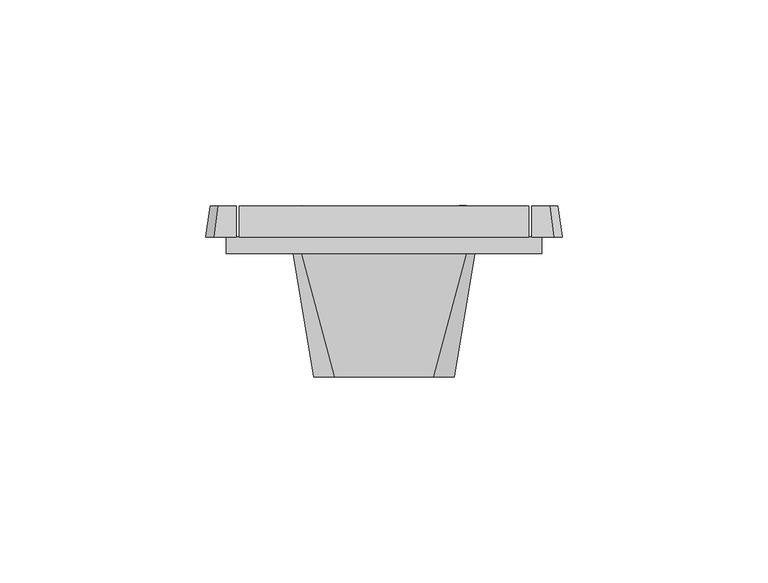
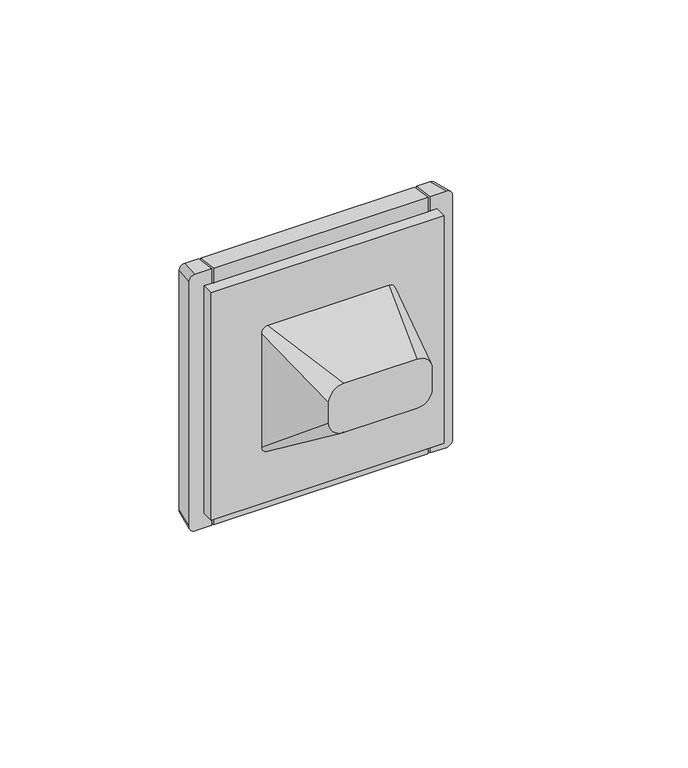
"""IFC4 building model written with IfcOpenShell, lengths in millimetres: proxy geometry, IEK_Forte&Piano_Розекта 1гн : USB A+A_FP145."""

from ifc_helpers import new_model, si_unit, point, frame, frame_2d, origin, origin_2d, place, context, project, spatial, polyline, circle_curve, ellipse_curve, trimmed, segment, composite_curve, outline, extrude, source, transform, mapped, element, save
from ifc_brep_helpers import plane_surface, cylinder_surface, revolved_surface, extruded_surface, spline_surface, advanced_brep


def electrical_fixtures_ebbff71c(model_context):
    return source(origin(), model_context, "Body", "SolidModel", [
        extrude(outline(polyline([(0.0, -1.1531456), (0.0, 0.0), (6.432744, 0.0), (6.432744, -1.1531456), (0.0, -1.1531456)])), frame((21.2404576, 9.798562, 14.5465446), z_axis=(0.7071067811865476, 0.0, 0.7071067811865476), x_axis=(0.0, -1.0, 0.0)), (0.0, 0.0, 1.0), 0.9632194),
        extrude(outline(polyline([(0.0, -1.1531455), (0.0, 0.0), (6.432744, 0.0), (6.432744, -1.1531455), (0.0, -1.1531455)])), frame((19.4528563, 9.798562, 16.3341459), z_axis=(0.7071067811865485, 0.0, 0.7071067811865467), x_axis=(0.0, -1.0, 0.0)), (0.0, 0.0, 1.0), 0.9632194),
        extrude(outline(polyline([(0.0, -1.1531456), (0.0, 0.0), (6.432744, 0.0), (6.432744, -1.1531456), (0.0, -1.1531456)])), frame((17.7049237, 9.798562, 18.0820785), z_axis=(0.7071067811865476, 0.0, 0.7071067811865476), x_axis=(0.0, -1.0, 0.0)), (0.0, 0.0, 1.0), 0.9632194),
        extrude(outline(polyline([(0.0, -1.1531455), (0.0, 0.0), (6.432744, 0.0), (6.432744, -1.1531455), (0.0, -1.1531455)])), frame((15.9173224, 9.798562, 19.8696798), z_axis=(0.7071067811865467, 0.0, 0.7071067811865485), x_axis=(0.0, -1.0, 0.0)), (0.0, 0.0, 1.0), 0.9632194),
        extrude(outline(polyline([(0.0, -11.3487944), (0.0, 0.0), (6.7835378, 0.0), (6.7835378, -11.3487944), (0.0, -11.3487944)])), frame((14.0179934, 3.365818, 21.2650885), z_axis=(0.7071067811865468, 0.0, 0.7071067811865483), x_axis=(0.0, 1.0, 0.0)), (0.0, 0.0, 1.0), 1.1632949),
        extrude(outline(polyline([(0.0, -0.9632194), (0.0, 0.0), (6.432744, 0.0), (6.432744, -0.9632194), (0.0, -0.9632194)])), frame((-21.2404576, 9.798562, 14.5465446), z_axis=(0.7071067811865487, 0.0, 0.7071067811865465), x_axis=(0.0, -1.0, 0.0)), (0.0, 0.0, 1.0), 1.1531456),
        extrude(outline(polyline([(0.0, -0.9632194), (0.0, 0.0), (6.432744, 0.0), (6.432744, -0.9632194), (0.0, -0.9632194)])), frame((-19.4528563, 9.798562, 16.3341459), z_axis=(0.7071067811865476, 0.0, 0.7071067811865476), x_axis=(0.0, -1.0, 0.0)), (0.0, 0.0, 1.0), 1.1531456),
        extrude(outline(polyline([(0.0, -0.9632194), (0.0, 0.0), (6.432744, 0.0), (6.432744, -0.9632194), (0.0, -0.9632194)])), frame((-17.7049237, 9.798562, 18.0820785), z_axis=(0.7071067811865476, 0.0, 0.7071067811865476), x_axis=(0.0, -1.0, 0.0)), (0.0, 0.0, 1.0), 1.1531456),
        extrude(outline(polyline([(0.0, -0.9632194), (0.0, 0.0), (6.432744, 0.0), (6.432744, -0.9632194), (0.0, -0.9632194)])), frame((-15.9173224, 9.798562, 19.8696798), z_axis=(0.7071067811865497, 0.0, 0.7071067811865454), x_axis=(0.0, -1.0, 0.0)), (0.0, 0.0, 1.0), 1.1531456),
        extrude(outline(polyline([(0.0, -1.1632949), (0.0, 0.0), (6.7835378, 0.0), (6.7835378, -1.1632949), (0.0, -1.1632949)])), frame((-22.8653766, 3.365818, 14.0628527), z_axis=(0.7071067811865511, 0.0, 0.7071067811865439), x_axis=(0.0, 1.0, 0.0)), (0.0, 0.0, 1.0), 11.3487944),
        advanced_brep(
        [(-20.0, 11.6, 0.0), (-20.0, 0.0, 0.0), (20.0, 0.0, 0.0), (20.0, 11.6, 0.0), (35.2, 11.5, 43.5), (35.2, 4.0, 44.5), (35.2, 4.0, 39.5), (35.2, 4.0, -39.5), (35.2, 4.0, -44.5), (35.2, 11.5, -43.5), (-35.2, 11.5, 43.5), (-35.2, 11.5, -43.5), (-35.2, 4.0, -44.5), (-35.2, 4.0, -39.5), (-35.2, 4.0, 39.5), (-35.2, 4.0, 44.5), (21.930348, 11.5, 11.4595346), (26.1729886, 11.5, 15.7021753), (16.2734937, 11.5, 25.6016703), (12.030853, 11.5, 21.3590296), (-16.2734937, 11.5, 25.6016703), (-26.1729886, 11.5, 15.7021753), (-21.930348, 11.5, 11.4595346), (-12.030853, 11.5, 21.3590296), (26.1729886, 4.0, 15.7021753), (21.930348, 4.0, 11.4595346), (12.030853, 4.0, 21.3590296), (16.2734937, 4.0, 25.6016703), (-26.1729886, 4.0, 15.7021753), (-16.2734937, 4.0, 25.6016703), (-12.030853, 4.0, 21.3590296), (-21.930348, 4.0, 11.4595346), (38.25, 4.0, 39.5), (38.25, 4.0, -39.5), (-38.25, 4.0, -39.5), (-38.25, 4.0, 39.5), (-38.25, 0.0, 39.5), (-38.25, 0.0, -39.5), (38.25, 0.0, -39.5), (38.25, 0.0, 39.5)],
        [
            (0, 1),
            (1, 2, circle_curve(frame((0.0, 0.0, 0.0), z_axis=(0.0, -1.0, 0.0), x_axis=(-1.0, 0.0, 0.0)), 20.0)),
            (2, 3),
            (3, 0, circle_curve(frame((0.0, 11.5, 0.0), z_axis=(0.0, 1.0, 0.0), x_axis=(-1.0, 0.0, 0.0)), 20.0)),
            (0, 3, circle_curve(frame((0.0, 11.5, 0.0), z_axis=(0.0, 1.0, 0.0), x_axis=(-1.0, 0.0, 0.0)), 20.0)),
            (2, 1, circle_curve(frame((0.0, 0.0, 0.0), z_axis=(0.0, -1.0, 0.0), x_axis=(-1.0, 0.0, 0.0)), 20.0)),
            (4, 5),
            (5, 6),
            (6, 7),
            (7, 8),
            (8, 9),
            (9, 4),
            (10, 11),
            (11, 12),
            (12, 13),
            (13, 14),
            (14, 15),
            (15, 10),
            (4, 10),
            (15, 5),
            (14, 6),
            (12, 8),
            (7, 13),
            (11, 9),
            (16, 17),
            (17, 18),
            (18, 19),
            (19, 16),
            (20, 21),
            (21, 22),
            (22, 23),
            (23, 20),
            (24, 17),
            (16, 25),
            (25, 24),
            (19, 26),
            (26, 25),
            (18, 27),
            (27, 26),
            (24, 27),
            (28, 21),
            (20, 29),
            (29, 28),
            (23, 30),
            (30, 29),
            (22, 31),
            (31, 30),
            (28, 31),
            (32, 33),
            (33, 7),
            (6, 32),
            (34, 35),
            (35, 14),
            (13, 34),
            (36, 37),
            (37, 38),
            (38, 39),
            (39, 36),
            (34, 37),
            (36, 35),
            (33, 38),
            (32, 39),
        ],
        [
            revolved_surface(polyline([(-20.0, 11.6, 0.0), (-20.0, 0.0, 0.0)]), (0.0, 0.0, 0.0), (0.0, 1.0, 0.0)),
            plane_surface(frame((35.2, 4.0, 44.5), z_axis=(1.0, 0.0, 0.0), x_axis=(0.0, -0.9912279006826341, 0.13216372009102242))),
            plane_surface(frame((-35.2, 4.0, 44.5), z_axis=(-1.0, 0.0, 0.0), x_axis=(0.0, 0.9912279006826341, -0.13216372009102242))),
            plane_surface(frame((35.2, 11.5, 43.5), z_axis=(0.0, 0.13216372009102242, 0.9912279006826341), x_axis=(-1.0, 0.0, 0.0))),
            plane_surface(frame((35.2, 4.0, 44.5), z_axis=(0.0, -1.0, 0.0), x_axis=(-1.0, 0.0, 0.0))),
            plane_surface(frame((35.2, 4.0, -44.5), z_axis=(0.0, 0.1321637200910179, -0.9912279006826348), x_axis=(-1.0, 0.0, 0.0))),
            plane_surface(frame((35.2, 11.5, -43.5), z_axis=(0.0, 1.0, 0.0), x_axis=(-1.0, 0.0, 0.0))),
            plane_surface(frame((26.1729886, 11.5, 15.7021753), z_axis=(-0.7071067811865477, 0.0, 0.7071067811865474), x_axis=(0.0, -1.0, 0.0))),
            plane_surface(frame((21.930348, 11.5, 11.4595346), z_axis=(0.7071067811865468, 0.0, 0.7071067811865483), x_axis=(0.0, -1.0, 0.0))),
            plane_surface(frame((12.030853, 11.5, 21.3590296), z_axis=(0.7071067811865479, 0.0, -0.7071067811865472), x_axis=(0.0, -1.0, 0.0))),
            plane_surface(frame((16.2734937, 11.5, 25.6016703), z_axis=(-0.7071067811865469, 0.0, -0.7071067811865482), x_axis=(0.0, -1.0, 0.0))),
            plane_surface(frame((-26.1729886, 11.5, 15.7021753), z_axis=(0.7071067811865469, 0.0, -0.7071067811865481), x_axis=(0.0, -1.0, 0.0))),
            plane_surface(frame((-16.2734937, 11.5, 25.6016703), z_axis=(-0.7071067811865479, 0.0, -0.7071067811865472), x_axis=(0.0, -1.0, 0.0))),
            plane_surface(frame((-12.030853, 11.5, 21.3590296), z_axis=(-0.7071067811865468, 0.0, 0.7071067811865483), x_axis=(0.0, -1.0, 0.0))),
            plane_surface(frame((-21.930348, 11.5, 11.4595346), z_axis=(0.7071067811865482, 0.0, 0.7071067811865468), x_axis=(0.0, -1.0, 0.0))),
            plane_surface(frame((-38.25, 4.0, 39.5), z_axis=(0.0, 1.0, 0.0), x_axis=(0.0, 0.0, 1.0))),
            plane_surface(frame((-38.25, 0.0, 39.5), z_axis=(0.0, -1.0, 0.0), x_axis=(0.0, 0.0, -1.0))),
            plane_surface(frame((-38.25, 0.0, 39.5), z_axis=(-1.0, 0.0, 0.0), x_axis=(0.0, 1.0, 0.0))),
            plane_surface(frame((-38.25, 0.0, -39.5), z_axis=(0.0, 0.0, -1.0), x_axis=(0.0, 1.0, 0.0))),
            plane_surface(frame((38.25, 0.0, -39.5), z_axis=(1.0, 0.0, 0.0), x_axis=(0.0, 1.0, 0.0))),
            plane_surface(frame((38.25, 0.0, 39.5), z_axis=(0.0, 0.0, 1.0), x_axis=(0.0, 1.0, 0.0))),
        ],
        [
            (0, [[1, 2, 3, 4]]),
            (0, [[-1, 5, -3, 6]]),
            (1, [[7, 8, 9, 10, 11, 12]]),
            (2, [[13, 14, 15, 16, 17, 18]]),
            (3, [[-7, 19, -18, 20]]),
            (4, [[-20, -17, 21, -8]]),
            (4, [[22, -10, 23, -15]]),
            (5, [[-11, -22, -14, 24]]),
            (6, [[-12, -24, -13, -19], [-4, -5], [25, 26, 27, 28], [29, 30, 31, 32]]),
            (7, [[33, -25, 34, 35]]),
            (8, [[-34, -28, 36, 37]]),
            (9, [[-36, -27, 38, 39]]),
            (10, [[-33, 40, -38, -26]]),
            (11, [[41, -29, 42, 43]]),
            (12, [[-42, -32, 44, 45]]),
            (13, [[-44, -31, 46, 47]]),
            (14, [[-41, 48, -46, -30]]),
            (15, [[-35, -37, -39, -40]]),
            (15, [[-43, -45, -47, -48]]),
            (15, [[49, 50, -9, 51]]),
            (15, [[52, 53, -16, 54]]),
            (16, [[55, 56, 57, 58], [-2, -6]]),
            (17, [[-52, 59, -55, 60]]),
            (18, [[-56, -59, -54, -23, -50, 61]]),
            (19, [[-49, 62, -57, -61]]),
            (20, [[-58, -62, -51, -21, -53, -60]]),
        ],
    ),
        extrude(outline(composite_curve([segment(trimmed(circle_curve(frame_2d((6.4251956, 19.2322549)), 1.2539127), [point((7.6710794, 19.3739261))], [point((5.5330873, 18.3510967))], False, "CARTESIAN"), True, "CONTINUOUS"), segment(polyline([(5.5330873, 18.3510967), (-1.7, 17.5095674), (-1.7, 18.7042816), (7.6710794, 19.3739261)]), True, "CONTINUOUS")], self_intersect=False)), frame((-1.5, 0.0, 0.0), z_axis=(1.0, 0.0, 0.0), x_axis=(0.0, 1.0, 0.0)), (0.0, 0.0, 1.0), 3.0),
        extrude(outline(composite_curve([segment(polyline([(7.6710794, -19.3739261), (-1.7, -18.7042816), (-1.7, -17.5095674), (5.5330873, -18.3510967)]), True, "CONTINUOUS"), segment(trimmed(circle_curve(frame_2d((6.4251956, -19.2322549)), 1.2539127), [point((5.5330873, -18.3510967))], [point((7.6710794, -19.3739261))], False, "CARTESIAN"), True, "CONTINUOUS")], self_intersect=False)), frame((-1.5, 0.0, 0.0), z_axis=(1.0, 0.0, 0.0), x_axis=(0.0, 1.0, 0.0)), (0.0, 0.0, 1.0), 3.0),
        advanced_brep(
        [(-12.0, -30.0, 17.0), (-17.0, -30.0, 12.0), (-17.0, -30.0, 5.0), (-12.0, -30.0, 0.0), (12.0, -30.0, 0.0), (17.0, -30.0, 5.0), (17.0, -30.0, 12.0), (12.0, -30.0, 17.0), (-20.0, 0.0, 22.0), (20.0, 0.0, 22.0), (22.0, 0.0, 20.0), (22.0, 0.0, -20.0), (20.0, 0.0, -22.0), (-20.0, 0.0, -22.0), (-22.0, 0.0, -20.0), (-22.0, 0.0, 20.0), (11.8753617, 0.0, 0.0), (6.3904783, 0.0, 0.0), (-6.3904783, 0.0, 0.0), (-11.8753617, 0.0, 0.0), (3.0105286, 0.0, 0.0), (-3.0105286, 0.0, 0.0), (1.5, 0.0, 19.3739261), (-1.5, 0.0, 19.3739261), (-1.5, 0.0, 17.5095674), (1.5, 0.0, 17.5095674), (1.5, 0.0, -19.3739261), (1.5, 0.0, -17.5095674), (-1.5, 0.0, -17.5095674), (-1.5, 0.0, -19.3739261), (1.5, -6.1233172, -17.5095674), (1.5, -3.5810099, -19.3739261), (-1.5, -3.5810099, -19.3739261), (-1.5, -6.1233172, -17.5095674), (11.8753617, -10.5003369, 0.0), (6.3904783, -10.5003369, 0.0), (-6.3904783, -10.5003369, 0.0), (-11.8753617, -10.5003369, 0.0), (3.0105286, -10.5003369, 0.0), (-3.0105286, -10.5003369, 0.0), (1.5, -10.5003369, 19.3739261), (1.5, -10.5003369, 17.5095674), (-1.5, -10.5003369, 17.5095674), (-1.5, -10.5003369, 19.3739261)],
        [
            (0, 1, circle_curve(frame((-12.0, -30.0, 12.0), z_axis=(0.0, -1.0, 0.0), x_axis=(1.0, 0.0, 0.0)), 5.0)),
            (1, 2),
            (2, 3, circle_curve(frame((-12.0, -30.0, 5.0), z_axis=(0.0, -1.0, 0.0), x_axis=(1.0, 0.0, 0.0)), 5.0)),
            (3, 4),
            (4, 5, circle_curve(frame((12.0, -30.0, 5.0), z_axis=(0.0, -1.0, 0.0), x_axis=(1.0, 0.0, 0.0)), 5.0)),
            (5, 6),
            (6, 7, circle_curve(frame((12.0, -30.0, 12.0), z_axis=(0.0, -1.0, 0.0), x_axis=(1.0, 0.0, 0.0)), 5.0)),
            (7, 0),
            (8, 9),
            (9, 10, circle_curve(frame((20.0, 0.0, 20.0), z_axis=(0.0, 1.0, 0.0), x_axis=(1.0, 0.0, 0.0)), 2.0)),
            (10, 11),
            (11, 12, circle_curve(frame((20.0, 0.0, -20.0), z_axis=(0.0, 1.0, 0.0), x_axis=(1.0, 0.0, 0.0)), 2.0)),
            (12, 13),
            (13, 14, circle_curve(frame((-20.0, 0.0, -20.0), z_axis=(0.0, 1.0, 0.0), x_axis=(1.0, 0.0, 0.0)), 2.0)),
            (14, 15),
            (15, 8, circle_curve(frame((-20.0, 0.0, 20.0), z_axis=(0.0, 1.0, 0.0), x_axis=(1.0, 0.0, 0.0)), 2.0)),
            (16, 17, circle_curve(frame((9.13292, 0.0, 0.0), z_axis=(0.0, -1.0, 0.0), x_axis=(-1.0, 0.0, 0.0)), 2.7424417)),
            (17, 16, circle_curve(frame((9.13292, 0.0, 0.0), z_axis=(0.0, -1.0, 0.0), x_axis=(-1.0, 0.0, 0.0)), 2.7424417)),
            (18, 19, circle_curve(frame((-9.13292, 0.0, 0.0), z_axis=(0.0, -1.0, 0.0), x_axis=(-1.0, 0.0, 0.0)), 2.7424417)),
            (19, 18, circle_curve(frame((-9.13292, 0.0, 0.0), z_axis=(0.0, -1.0, 0.0), x_axis=(-1.0, 0.0, 0.0)), 2.7424417)),
            (20, 21, circle_curve(frame((0.0, 0.0, 0.0), z_axis=(0.0, -1.0, 0.0), x_axis=(-1.0, 0.0, 0.0)), 3.0105286)),
            (21, 20, circle_curve(frame((0.0, 0.0, 0.0), z_axis=(0.0, -1.0, 0.0), x_axis=(-1.0, 0.0, 0.0)), 3.0105286)),
            (22, 23),
            (23, 24),
            (24, 25),
            (25, 22),
            (26, 27),
            (27, 28),
            (28, 29),
            (29, 26),
            (7, 9),
            (8, 0),
            (6, 10),
            (5, 11),
            (4, 12),
            (3, 13),
            (30, 31),
            (31, 32),
            (32, 33),
            (33, 30),
            (2, 14),
            (1, 15),
            (34, 35, circle_curve(frame((9.13292, -10.5003369, 0.0), z_axis=(0.0, 1.0, 0.0), x_axis=(-1.0, 0.0, 0.0)), 2.7424417)),
            (35, 34, circle_curve(frame((9.13292, -10.5003369, 0.0), z_axis=(0.0, 1.0, 0.0), x_axis=(-1.0, 0.0, 0.0)), 2.7424417)),
            (36, 37, circle_curve(frame((-9.13292, -10.5003369, 0.0), z_axis=(0.0, 1.0, 0.0), x_axis=(-1.0, 0.0, 0.0)), 2.7424417)),
            (37, 36, circle_curve(frame((-9.13292, -10.5003369, 0.0), z_axis=(0.0, 1.0, 0.0), x_axis=(-1.0, 0.0, 0.0)), 2.7424417)),
            (38, 39, circle_curve(frame((0.0, -10.5003369, 0.0), z_axis=(0.0, 1.0, 0.0), x_axis=(-1.0, 0.0, 0.0)), 3.0105286)),
            (39, 38, circle_curve(frame((0.0, -10.5003369, 0.0), z_axis=(0.0, 1.0, 0.0), x_axis=(-1.0, 0.0, 0.0)), 3.0105286)),
            (40, 41),
            (41, 42),
            (42, 43),
            (43, 40),
            (35, 17),
            (16, 34),
            (37, 19),
            (18, 36),
            (39, 21),
            (20, 38),
            (43, 23),
            (22, 40),
            (42, 24),
            (41, 25),
            (30, 27),
            (26, 31),
            (33, 28),
            (32, 29),
        ],
        [
            plane_surface(frame((0.0, -30.0, 8.5), z_axis=(0.0, -1.0, 0.0), x_axis=(-1.0, 0.0, 0.0))),
            plane_surface(frame((0.0, 0.0, 0.0), z_axis=(0.0, 1.0, 0.0), x_axis=(-1.0, 0.0, 0.0))),
            plane_surface(frame((0.0, 0.0, 22.0), z_axis=(0.0, -0.16439898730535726, 0.9863939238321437), x_axis=(-1.0, 0.0, 0.0))),
            spline_surface(2, 1, [[(22.0, 0.0, 20.0), (17.0, -30.0, 12.0)], [(22.0, 0.0, 22.0), (17.0, -30.0, 17.0)], [(20.0, 0.0, 22.0), (12.0, -30.0, 17.0)]], [3, 3], [2, 2], [0.0, 1.0], [0.0, 1.0], weights=[[1.0, 1.0], [0.7071067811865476, 0.7071067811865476], [1.0, 1.0]]),
            plane_surface(frame((22.0, 0.0, 0.0), z_axis=(0.9863939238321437, -0.1643989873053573, 0.0), x_axis=(0.0, 0.0, 1.0))),
            spline_surface(2, 1, [[(20.0, 0.0, -22.0), (12.0, -30.0, 0.0)], [(22.0, 0.0, -22.0), (17.0, -30.0, 0.0)], [(22.0, 0.0, -20.0), (17.0, -30.0, 5.0)]], [3, 3], [2, 2], [0.0, 1.0], [0.0, 1.0], weights=[[1.0, 1.0], [0.7071067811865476, 0.7071067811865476], [1.0, 1.0]]),
            plane_surface(frame((0.0, 0.0, -22.0), z_axis=(0.0, -0.591363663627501, -0.8064049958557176), x_axis=(1.0, 0.0, 0.0))),
            spline_surface(2, 1, [[(-22.0, 0.0, -20.0), (-17.0, -30.0, 5.0)], [(-22.0, 0.0, -22.0), (-17.0, -30.0, 0.0)], [(-20.0, 0.0, -22.0), (-12.0, -30.0, 0.0)]], [3, 3], [2, 2], [0.0, 1.0], [0.0, 1.0], weights=[[1.0, 1.0], [0.7071067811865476, 0.7071067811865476], [1.0, 1.0]]),
            plane_surface(frame((-22.0, 0.0, 0.0), z_axis=(-0.9863939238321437, -0.1643989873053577, 0.0), x_axis=(0.0, 0.0, -1.0))),
            spline_surface(2, 1, [[(-20.0, 0.0, 22.0), (-12.0, -30.0, 17.0)], [(-22.0, 0.0, 22.0), (-17.0, -30.0, 17.0)], [(-22.0, 0.0, 20.0), (-17.0, -30.0, 12.0)]], [3, 3], [2, 2], [0.0, 1.0], [0.0, 1.0], weights=[[1.0, 1.0], [0.7071067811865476, 0.7071067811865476], [1.0, 1.0]]),
            plane_surface(frame((6.3904783, -10.5003369, 0.0), z_axis=(0.0, 1.0, 0.0), x_axis=(0.0, 0.0, -1.0))),
            revolved_surface(polyline([(6.3904783, 0.0, 0.0), (6.3904783, -10.5003369, 0.0)]), (9.13292, -10.5003369, 0.0), (0.0, 1.0, 0.0)),
            revolved_surface(polyline([(-11.875361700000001, 0.0, 0.0), (-11.875361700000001, -10.5003369, 0.0)]), (-9.13292, 0.0, 0.0), (0.0, 1.0, 0.0)),
            revolved_surface(polyline([(-3.0105286, 0.0, 0.0), (-3.0105286, -10.5003369, 0.0)]), (0.0, 0.0, 0.0), (0.0, 1.0, 0.0)),
            plane_surface(frame((-1.5, 1.0, 19.3739261), z_axis=(0.0, 0.0, -1.0), x_axis=(0.0, -1.0, 0.0))),
            plane_surface(frame((-1.5, 1.0, 17.5095674), z_axis=(1.0, 0.0, 0.0), x_axis=(0.0, -1.0, 0.0))),
            plane_surface(frame((1.5, 1.0, 17.5095674), z_axis=(0.0, 0.0, 1.0), x_axis=(0.0, -1.0, 0.0))),
            plane_surface(frame((1.5, 1.0, 19.3739261), z_axis=(-1.0, 0.0, 0.0), x_axis=(0.0, -1.0, 0.0))),
            plane_surface(frame((1.5, 1.0, -17.5095674), z_axis=(-1.0, 0.0, 0.0), x_axis=(0.0, -1.0, 0.0))),
            plane_surface(frame((-1.5, 1.0, -17.5095674), z_axis=(0.0, 0.0, -1.0), x_axis=(0.0, -1.0, 0.0))),
            plane_surface(frame((-1.5, 1.0, -19.3739261), z_axis=(1.0, 0.0, 0.0), x_axis=(0.0, -1.0, 0.0))),
            plane_surface(frame((1.5, 1.0, -19.3739261), z_axis=(0.0, 0.0, 1.0), x_axis=(0.0, -1.0, 0.0))),
        ],
        [
            (0, [[1, 2, 3, 4, 5, 6, 7, 8]]),
            (1, [[9, 10, 11, 12, 13, 14, 15, 16], [17, 18], [19, 20], [21, 22], [23, 24, 25, 26], [27, 28, 29, 30]]),
            (2, [[-8, 31, -9, 32]]),
            (3, [[-7, 33, -10, -31]]),
            (4, [[-6, 34, -11, -33]]),
            (5, [[-5, 35, -12, -34]]),
            (6, [[-4, 36, -13, -35], [37, 38, 39, 40]]),
            (7, [[-3, 41, -14, -36]]),
            (8, [[-2, 42, -15, -41]]),
            (9, [[-1, -32, -16, -42]]),
            (10, [[43, 44]]),
            (10, [[45, 46]]),
            (10, [[47, 48]]),
            (10, [[49, 50, 51, 52]]),
            (11, [[-44, 53, -17, 54]]),
            (11, [[-43, -54, -18, -53]]),
            (12, [[-46, 55, -19, 56]]),
            (12, [[-45, -56, -20, -55]]),
            (13, [[-48, 57, -21, 58]]),
            (13, [[-47, -58, -22, -57]]),
            (14, [[-52, 59, -23, 60]]),
            (15, [[-51, 61, -24, -59]]),
            (16, [[-50, 62, -25, -61]]),
            (17, [[-49, -60, -26, -62]]),
            (18, [[63, -27, 64, -37]]),
            (19, [[-63, -40, 65, -28]]),
            (20, [[-65, -39, 66, -29]]),
            (21, [[-66, -38, -64, -30]]),
        ],
    ),
        advanced_brep(
        [(0.0, 0.078125, -2.8986917), (0.0, 0.078125, 2.8986917), (0.0, 0.8649081, 0.0), (0.0, -1.7, -2.8986917), (0.0, -1.7, 2.8986917), (0.0, -1.7, 0.0)],
        [
            (0, 1, circle_curve(frame((0.0, 0.078125, 0.0), z_axis=(0.0, 1.0, 0.0), x_axis=(0.0, 0.0, 1.0)), 2.8986917)),
            (1, 2, ellipse_curve(frame((0.0, 0.078125, 0.15625), z_axis=(-1.0, 0.0, 0.0), x_axis=(0.0, 0.0, 1.0)), 2.7424417, 0.7880633)),
            (2, 0, ellipse_curve(frame((0.0, 0.078125, -0.15625), z_axis=(-1.0, 0.0, 0.0), x_axis=(0.0, 0.0, -1.0)), 2.7424417, 0.7880633)),
            (1, 0, circle_curve(frame((0.0, 0.078125, 0.0), z_axis=(0.0, 1.0, 0.0), x_axis=(0.0, 0.0, 1.0)), 2.8986917)),
            (3, 4, circle_curve(frame((0.0, -1.7, 0.0), z_axis=(0.0, 1.0, 0.0), x_axis=(0.0, 0.0, 1.0)), 2.8986917)),
            (4, 1),
            (0, 3),
            (4, 3, circle_curve(frame((0.0, -1.7, 0.0), z_axis=(0.0, 1.0, 0.0), x_axis=(0.0, 0.0, 1.0)), 2.8986917)),
            (5, 4),
            (3, 5),
        ],
        [
            revolved_surface(trimmed(ellipse_curve(frame((0.0, 0.078125, 0.15625), z_axis=(1.0, 0.0, 0.0), x_axis=(0.0, 0.0, 1.0)), 2.7424417, 0.7880633), [point((0.0, 0.8649081, 0.0))], [point((0.0, 0.078125, 2.8986917))], True, "CARTESIAN"), (0.0, -3.0228134, 0.0), (0.0, -1.0, 0.0)),
            cylinder_surface(frame((0.0, -3.0228134, 0.0), z_axis=(0.0, -1.0, 0.0), x_axis=(0.0, 0.0, 1.0)), 2.8986917),
            plane_surface(frame((0.0, -1.7, 0.0), z_axis=(0.0, -1.0, 0.0), x_axis=(0.0, 0.0, 1.0))),
        ],
        [
            (0, [[1, 2, 3]]),
            (0, [[4, -3, -2]]),
            (1, [[5, 6, -1, 7]]),
            (1, [[8, -7, -4, -6]]),
            (2, [[9, -5, 10]]),
            (2, [[-10, -8, -9]]),
        ],
    ),
        extrude(outline(composite_curve([segment(polyline([(3.2980592, -16.488464), (11.3194768, -16.488464)]), True, "CONTINUOUS"), segment(trimmed(circle_curve(origin_2d(), 20.0), [point((11.3194768, -16.488464))], [point((3.2980592, -19.7261959))], False, "CARTESIAN"), True, "CONTINUOUS"), segment(polyline([(3.2980592, -19.7261959), (3.2980592, -16.488464)]), True, "CONTINUOUS")], self_intersect=False)), frame((0.0, 0.0, 0.0), z_axis=(0.0, 1.0, 0.0), x_axis=(0.0, 0.0, 1.0)), (0.0, 0.0, 1.0), 8.0),
        extrude(outline(composite_curve([segment(polyline([(-3.2980592, -16.488464), (-3.2980592, -19.7261959)]), True, "CONTINUOUS"), segment(trimmed(circle_curve(origin_2d(), 20.0), [point((-3.2980592, -19.7261959))], [point((-11.3194768, -16.488464))], False, "CARTESIAN"), True, "CONTINUOUS"), segment(polyline([(-11.3194768, -16.488464), (-3.2980592, -16.488464)]), True, "CONTINUOUS")], self_intersect=False)), frame((0.0, 0.0, 0.0), z_axis=(0.0, 1.0, 0.0), x_axis=(0.0, 0.0, 1.0)), (0.0, 0.0, 1.0), 8.0),
        extrude(outline(composite_curve([segment(polyline([(3.2980592, 16.488464), (3.2980592, 19.7261959)]), True, "CONTINUOUS"), segment(trimmed(circle_curve(origin_2d(), 20.0), [point((3.2980592, 19.7261959))], [point((11.3194768, 16.488464))], False, "CARTESIAN"), True, "CONTINUOUS"), segment(polyline([(11.3194768, 16.488464), (3.2980592, 16.488464)]), True, "CONTINUOUS")], self_intersect=False)), frame((0.0, 0.0, 0.0), z_axis=(0.0, 1.0, 0.0), x_axis=(0.0, 0.0, 1.0)), (0.0, 0.0, 1.0), 8.0),
        extrude(outline(composite_curve([segment(polyline([(-3.2980592, 16.488464), (-11.3194768, 16.488464)]), True, "CONTINUOUS"), segment(trimmed(circle_curve(origin_2d(), 20.0), [point((-11.3194768, 16.488464))], [point((-3.2980592, 19.7261959))], False, "CARTESIAN"), True, "CONTINUOUS"), segment(polyline([(-3.2980592, 19.7261959), (-3.2980592, 16.488464)]), True, "CONTINUOUS")], self_intersect=False)), frame((0.0, 0.0, 0.0), z_axis=(0.0, 1.0, 0.0), x_axis=(0.0, 0.0, 1.0)), (0.0, 0.0, 1.0), 8.0),
        advanced_brep(
        [(35.8576533, 11.5, 43.5), (35.8576533, 11.5, -43.5), (35.8576533, 4.0, -44.5), (35.8576533, 4.0, 44.5), (40.25, 11.5, 43.5), (42.25, 11.5, 41.5), (42.25, 11.5, -41.5), (40.25, 11.5, -43.5), (41.25, 4.0, -44.5), (43.25, 4.0, -42.5), (43.25, 4.0, 42.5), (41.25, 4.0, 44.5)],
        [
            (0, 1),
            (1, 2),
            (2, 3),
            (3, 0),
            (4, 5, circle_curve(frame((40.25, 11.5, 41.5), z_axis=(0.0, 1.0, 0.0), x_axis=(-1.0, 0.0, 0.0)), 2.0)),
            (5, 6),
            (6, 7, circle_curve(frame((40.25, 11.5, -41.5), z_axis=(0.0, 1.0, 0.0), x_axis=(-1.0, 0.0, 0.0)), 2.0)),
            (7, 1),
            (0, 4),
            (8, 9, circle_curve(frame((41.25, 4.0, -42.5), z_axis=(0.0, -1.0, 0.0), x_axis=(-1.0, 0.0, 0.0)), 2.0)),
            (9, 10),
            (10, 11, circle_curve(frame((41.25, 4.0, 42.5), z_axis=(0.0, -1.0, 0.0), x_axis=(-1.0, 0.0, 0.0)), 2.0)),
            (11, 3),
            (2, 8),
            (11, 4),
            (10, 5),
            (9, 6),
            (8, 7),
        ],
        [
            plane_surface(frame((35.8576533, 11.5, 44.5), z_axis=(-1.0, 0.0, 0.0), x_axis=(0.0, -1.0, 0.0))),
            plane_surface(frame((0.0, 11.5, 0.0), z_axis=(0.0, 1.0, 0.0), x_axis=(1.0, 0.0, 0.0))),
            plane_surface(frame((0.0, 4.0, 0.0), z_axis=(0.0, -1.0, 0.0), x_axis=(1.0, 0.0, 0.0))),
            plane_surface(frame((0.0, 4.0, 44.5), z_axis=(0.0, 0.13216372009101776, 0.9912279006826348), x_axis=(1.0, 0.0, 0.0))),
            extruded_surface(trimmed(circle_curve(frame((41.25, 4.0, 42.5), z_axis=(0.0, 1.0, 0.0), x_axis=(-1.0, 0.0, 0.0)), 2.0), [point((41.25, 4.0, 44.5))], [point((43.25, 4.0, 42.5))], True, "CARTESIAN"), (-1.0, 7.5, -1.0), 7.632168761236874),
            plane_surface(frame((43.25, 4.0, 0.0), z_axis=(0.9912279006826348, 0.13216372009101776, 0.0), x_axis=(0.0, 0.0, -1.0))),
            extruded_surface(trimmed(circle_curve(frame((41.25, 4.0, -42.5), z_axis=(0.0, 1.0, 0.0), x_axis=(-1.0, 0.0, 0.0)), 2.0), [point((43.25, 4.0, -42.5))], [point((41.25, 4.0, -44.5))], True, "CARTESIAN"), (-1.0, 7.5, 1.0), 7.632168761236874),
            plane_surface(frame((0.0, 4.0, -44.5), z_axis=(0.0, 0.13216372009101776, -0.9912279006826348), x_axis=(-1.0, 0.0, 0.0))),
        ],
        [
            (0, [[1, 2, 3, 4]]),
            (1, [[5, 6, 7, 8, -1, 9]]),
            (2, [[10, 11, 12, 13, -3, 14]]),
            (3, [[15, -9, -4, -13]]),
            (4, [[-5, -15, -12, 16]]),
            (5, [[-6, -16, -11, 17]]),
            (6, [[-7, -17, -10, 18]]),
            (7, [[-18, -14, -2, -8]]),
        ],
    ),
        advanced_brep(
        [(-35.8576533, 11.5, -43.5), (-35.8576533, 11.5, 43.5), (-35.8576533, 4.0, 44.5), (-35.8576533, 4.0, -44.5), (-40.25, 11.5, -43.5), (-42.25, 11.5, -41.5), (-42.25, 11.5, 41.5), (-40.25, 11.5, 43.5), (-41.25, 4.0, 44.5), (-43.25, 4.0, 42.5), (-43.25, 4.0, -42.5), (-41.25, 4.0, -44.5)],
        [
            (0, 1),
            (1, 2),
            (2, 3),
            (3, 0),
            (4, 5, circle_curve(frame((-40.25, 11.5, -41.5), z_axis=(0.0, 1.0, 0.0), x_axis=(-1.0, 0.0, 0.0)), 2.0)),
            (5, 6),
            (6, 7, circle_curve(frame((-40.25, 11.5, 41.5), z_axis=(0.0, 1.0, 0.0), x_axis=(-1.0, 0.0, 0.0)), 2.0)),
            (7, 1),
            (0, 4),
            (8, 9, circle_curve(frame((-41.25, 4.0, 42.5), z_axis=(0.0, -1.0, 0.0), x_axis=(-1.0, 0.0, 0.0)), 2.0)),
            (9, 10),
            (10, 11, circle_curve(frame((-41.25, 4.0, -42.5), z_axis=(0.0, -1.0, 0.0), x_axis=(-1.0, 0.0, 0.0)), 2.0)),
            (11, 3),
            (2, 8),
            (7, 8),
            (11, 4),
            (10, 5),
            (9, 6),
        ],
        [
            plane_surface(frame((-35.8576533, 11.5, -44.5), z_axis=(1.0, 0.0, 0.0), x_axis=(0.0, -1.0, 0.0))),
            plane_surface(frame((0.0, 11.5, 0.0), z_axis=(0.0, 1.0, 0.0), x_axis=(1.0, 0.0, 0.0))),
            plane_surface(frame((0.0, 4.0, 0.0), z_axis=(0.0, -1.0, 0.0), x_axis=(1.0, 0.0, 0.0))),
            plane_surface(frame((0.0, 4.0, 44.5), z_axis=(0.0, 0.13216372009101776, 0.9912279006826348), x_axis=(1.0, 0.0, 0.0))),
            plane_surface(frame((0.0, 4.0, -44.5), z_axis=(0.0, 0.13216372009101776, -0.9912279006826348), x_axis=(-1.0, 0.0, 0.0))),
            extruded_surface(trimmed(circle_curve(frame((-41.25, 4.0, -42.5), z_axis=(0.0, 1.0, 0.0), x_axis=(-1.0, 0.0, 0.0)), 2.0), [point((-41.25, 4.0, -44.5))], [point((-43.25, 4.0, -42.5))], True, "CARTESIAN"), (1.0, 7.5, 1.0), 7.632168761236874),
            plane_surface(frame((-43.25, 4.0, 0.0), z_axis=(-0.9912279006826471, 0.13216372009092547, 0.0), x_axis=(0.0, 0.0, 1.0))),
            extruded_surface(trimmed(circle_curve(frame((-41.25, 4.0, 42.5), z_axis=(0.0, 1.0, 0.0), x_axis=(-1.0, 0.0, 0.0)), 2.0), [point((-43.25, 4.0, 42.5))], [point((-41.25, 4.0, 44.5))], True, "CARTESIAN"), (1.0, 7.5, -1.0), 7.632168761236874),
        ],
        [
            (0, [[1, 2, 3, 4]]),
            (1, [[5, 6, 7, 8, -1, 9]]),
            (2, [[10, 11, 12, 13, -3, 14]]),
            (3, [[15, -14, -2, -8]]),
            (4, [[16, -9, -4, -13]]),
            (5, [[-5, -16, -12, 17]]),
            (6, [[-6, -17, -11, 18]]),
            (7, [[-7, -18, -10, -15]]),
        ],
    ),
    ])


if __name__ == "__main__":
    model = new_model("IFC4")
    model_context = context("Model", 3, world=origin())
    ifc_project = project(units=[si_unit("LENGTHUNIT", "METRE", prefix="MILLI")], contexts=[model_context])
    site = spatial("IfcSite", under=ifc_project)
    building = spatial("IfcBuilding", under=site)
    placement = place(None, origin())
    electrical_fixtures_shape = electrical_fixtures_ebbff71c(model_context)
    element("IfcBuildingElementProxy", 1, Name="IEK_Forte&Piano_Розекта 1гн : USB A+A_FP145", ObjectType="IEK_Forte&Piano_Розекта 1гн : USB A+A_FP145", at=placement, inside=building, context=model_context, shape_type="MappedRepresentation", body=[
        mapped(electrical_fixtures_shape, transform((0.0, 0.0, 0.0), x_axis=(1.0, 0.0, 0.0), y_axis=(0.0, 1.0, 0.0), z_axis=(0.0, 0.0, 1.0))),
    ])
    save(model, "model.ifc")
